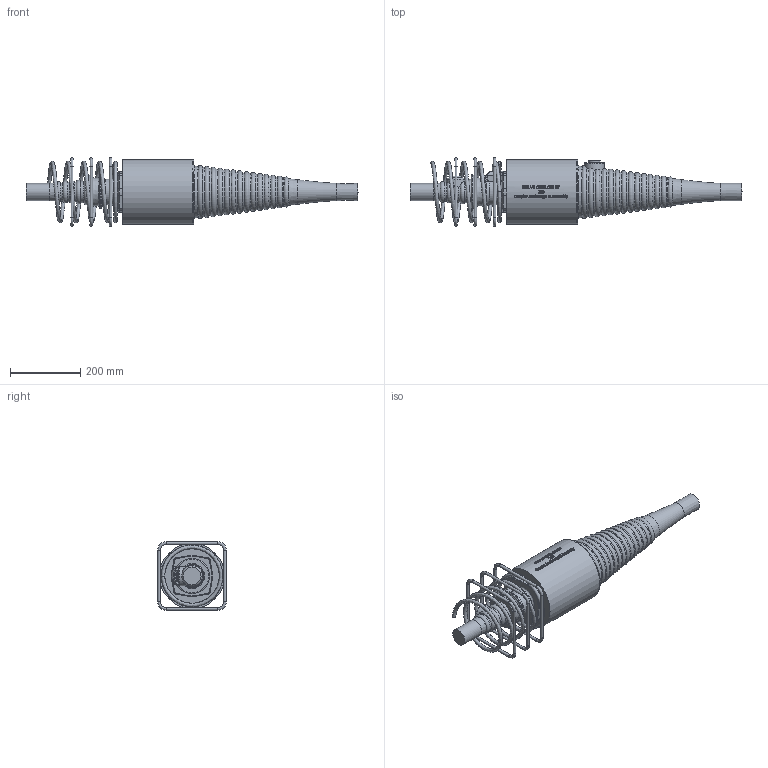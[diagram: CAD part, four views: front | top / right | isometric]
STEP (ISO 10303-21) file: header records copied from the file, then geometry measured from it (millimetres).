
FILE_DESCRIPTION(/* description */ (''),/* implementation_level */ '2;1');
FILE_NAME(/* name */ 'BBR VT CONA CMI BT 206_Coupler H Assembly_CS-34,28.stp',/* time_stamp */ '2025-04-29T09:53:30+02:00',/* author */ ('tk'),/* organization */ (''),/* preprocessor_version */ 'ST-DEVELOPER v20',/* originating_system */ 'Autodesk Inventor 2024',/* authorisation */ '');
FILE_SCHEMA (('AUTOMOTIVE_DESIGN { 1 0 10303 214 3 1 1 }'));
Products named in the file (1): BBR VT CONA CMI BT 206_Coupler H Assembly_CS-34,28
Bounding box: 945.07 x 195 x 195 mm (x, y, z)
Volume: 10352202.6 mm3; surface area: 509226.5 mm2
Topology: 5 solids, 5 shells, 911 faces, 2396 edges, 1553 vertices
Faces by surface type: bspline 365, plane 304, cylinder 107, torus 94, cone 29, sphere 12
Full cylindrical faces by diameter (mm): 8 x12, 32 x1, 34.158 x1, 49 x1, 55 x1, 57 x1, 95 x1, 100 x1, 185 x1
Entity records: 41613 total; most frequent: CARTESIAN_POINT 20162, ORIENTED_EDGE 4784, DIRECTION 3377, EDGE_CURVE 2392, VERTEX_POINT 1553, AXIS2_PLACEMENT_3D 1201, EDGE_LOOP 979, LINE 975
